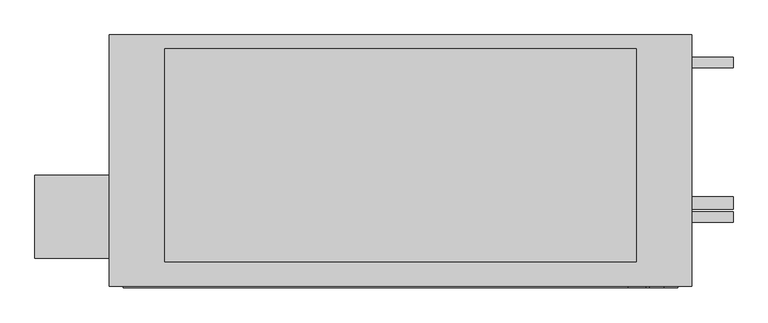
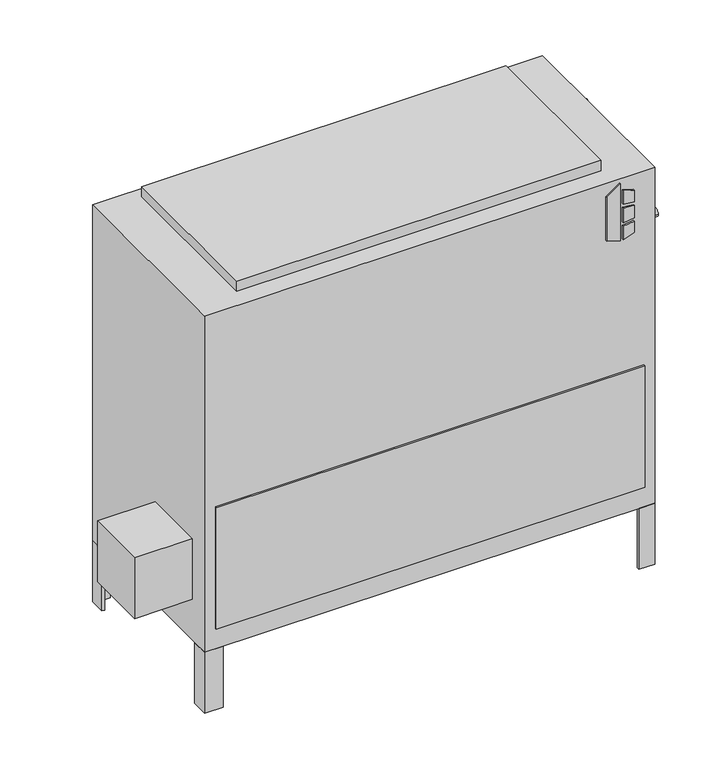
"""IFC4 building model written with IfcOpenShell, lengths in millimetres: proxy geometry, Concealed_High_Capacity_Vertical_Fan_Coil_Unit_-_VEY_-_IEC_-_2-Pipe_Cool-EHeat_RH_2022 : Size 14 - 277v/60Hz/1Ph - 6 Row 10.0kW."""

import ifcopenshell
import ifcopenshell.guid

model = None  # the IFC model being written
_history = None  # IfcOwnerHistory: only IFC2X3 demands one
_inside = {}  # id of a spatial element -> (the spatial element, [elements in it])
_under = {}  # id of a project, library or spatial element -> (it, [spatial elements below it])
_declared = {}  # id of a project -> (the project, [libraries it declares])
_typed = {}  # id of a type object -> (the type object, [elements of that type])
_made_of = {}  # id of a material, layer set ... -> (it, [elements and type objects made of it])


def new_model(schema):
    """Start an empty IFC model of exactly this schema.

    Asked for "IFC4X3", IfcOpenShell would pick the latest addendum, in which some entities
    have other attributes; the version numbers below select the first issue.
    IFC2X3 requires an IfcOwnerHistory on every rooted entity: one is made here for all.
    """
    global model, _history
    if schema == "IFC4X3":
        model = ifcopenshell.file(schema_version=(4, 3, 0, 0))
    else:
        model = ifcopenshell.file(schema=schema)
    _inside.clear()
    _under.clear()
    _declared.clear()
    _typed.clear()
    _made_of.clear()
    _history = None
    if model.schema == "IFC2X3":
        org = make("IfcOrganization", Name="unknown")
        user = make(
            "IfcPersonAndOrganization",
            ThePerson=make("IfcPerson", FamilyName="unknown"),
            TheOrganization=org,
        )
        app = make(
            "IfcApplication",
            ApplicationDeveloper=org,
            Version="unknown",
            ApplicationFullName="unknown",
            ApplicationIdentifier="unknown",
        )
        _history = make(
            "IfcOwnerHistory",
            OwningUser=user,
            OwningApplication=app,
            ChangeAction="ADDED",
            CreationDate=0,
        )
    return model


def make(cls, **values):
    """One entity of the class cls with the attributes given. An attribute that is None is left unset."""
    return model.create_entity(
        cls, **{name: value for name, value in values.items() if value is not None}
    )


def rooted(cls, **values):
    """An entity with a GlobalId (a new one), such as an element, a storey or a relation."""
    return make(cls, GlobalId=ifcopenshell.guid.new(), OwnerHistory=_history, **values)


def si_unit(unit_type, name, prefix=None):
    """IfcSIUnit, for example si_unit("LENGTHUNIT", "METRE", prefix="MILLI")."""
    return make("IfcSIUnit", UnitType=unit_type, Prefix=prefix, Name=name)


def assignment(units):
    """IfcUnitAssignment: the units of a project."""
    return None if units is None else make("IfcUnitAssignment", Units=units)


def point(xyz):
    """IfcCartesianPoint."""
    return None if xyz is None else make("IfcCartesianPoint", Coordinates=xyz)


def direction(xyz):
    """IfcDirection."""
    return None if xyz is None else make("IfcDirection", DirectionRatios=xyz)


def frame(location, z_axis=None, x_axis=None):
    """IfcAxis2Placement3D, a coordinate frame: its origin and axes. An axis left out is left unset."""
    return make(
        "IfcAxis2Placement3D",
        Location=point(location),
        Axis=direction(z_axis),
        RefDirection=direction(x_axis),
    )


def frame_2d(location, x_axis=None):
    """IfcAxis2Placement2D, a coordinate frame in the plane: its origin and x axis."""
    return make(
        "IfcAxis2Placement2D", Location=point(location), RefDirection=direction(x_axis)
    )


def origin():
    """The frame at (0, 0, 0) with its axes left unset."""
    return frame((0.0, 0.0, 0.0))


def origin_with_axes():
    """The frame at (0, 0, 0) with the z axis (0, 0, 1) and the x axis (1, 0, 0) written out."""
    return frame((0.0, 0.0, 0.0), z_axis=(0.0, 0.0, 1.0), x_axis=(1.0, 0.0, 0.0))


def place(relative_to, where):
    """IfcLocalPlacement: puts the frame where relative to a parent placement (None: the world)."""
    return make(
        "IfcLocalPlacement", PlacementRelTo=relative_to, RelativePlacement=where
    )


def context(
    kind, dimensions, precision=None, world=None, true_north=None, identifier=None
):
    """IfcGeometricRepresentationContext, for example the 3D "Model" context."""
    return make(
        "IfcGeometricRepresentationContext",
        ContextIdentifier=identifier,
        ContextType=kind,
        CoordinateSpaceDimension=dimensions,
        Precision=precision,
        WorldCoordinateSystem=world,
        TrueNorth=true_north,
    )


def project(units=None, contexts=None):
    """IfcProject with its units and contexts."""
    return rooted(
        "IfcProject",
        Name="project",
        RepresentationContexts=contexts,
        UnitsInContext=assignment(units),
    )


def spatial(cls, under=None, at=None, **own):
    """A site, building, storey or space (cls), placed at a placement, below another one or the project."""
    s = rooted(cls, ObjectPlacement=at, **own)
    if under is not None:
        _under.setdefault(under.id(), (under, []))[1].append(s)
    return s


def polyline(points):
    """IfcPolyline through the points."""
    return make("IfcPolyline", Points=[point(p) for p in points])


def circle_curve(where, radius):
    """IfcCircle in the frame where."""
    return make("IfcCircle", Position=where, Radius=radius)


def trimmed(basis, trim1, trim2, sense, master):
    """IfcTrimmedCurve: the piece of a basis curve between two trims."""
    return make(
        "IfcTrimmedCurve",
        BasisCurve=basis,
        Trim1=trim1,
        Trim2=trim2,
        SenseAgreement=sense,
        MasterRepresentation=master,
    )


def segment(curve, same_sense, transition):
    """IfcCompositeCurveSegment."""
    return make(
        "IfcCompositeCurveSegment",
        Transition=transition,
        SameSense=same_sense,
        ParentCurve=curve,
    )


def composite_curve(segments, self_intersect=None):
    """IfcCompositeCurve: segments joined end to end."""
    return make("IfcCompositeCurve", Segments=segments, SelfIntersect=self_intersect)


def outline(outer, holes=None, kind="AREA"):
    """IfcArbitraryClosedProfileDef: a profile drawn as a closed curve; with holes, ...WithVoids."""
    if holes is None:
        return make("IfcArbitraryClosedProfileDef", ProfileType=kind, OuterCurve=outer)
    return make(
        "IfcArbitraryProfileDefWithVoids",
        ProfileType=kind,
        OuterCurve=outer,
        InnerCurves=holes,
    )


def extrude(swept, where, along, depth):
    """IfcExtrudedAreaSolid: the profile swept, set in the frame where, extruded along a direction by depth."""
    return make(
        "IfcExtrudedAreaSolid",
        SweptArea=swept,
        Position=where,
        ExtrudedDirection=direction(along),
        Depth=depth,
    )


def shape(context_of_items, identifier, shape_type, items):
    """IfcShapeRepresentation: the items that make up one representation, for example the "Body"."""
    return make(
        "IfcShapeRepresentation",
        ContextOfItems=context_of_items,
        RepresentationIdentifier=identifier,
        RepresentationType=shape_type,
        Items=items,
    )


def source(mapping_origin, context_of_items, identifier, shape_type, items):
    """IfcRepresentationMap: a shape defined once, which mapped items show again and again."""
    return make(
        "IfcRepresentationMap",
        MappingOrigin=mapping_origin,
        MappedRepresentation=shape(context_of_items, identifier, shape_type, items),
    )


def transform(
    local_origin,
    x_axis=None,
    y_axis=None,
    z_axis=None,
    scale=None,
    scale2=None,
    scale3=None,
    uniform=True,
):
    """IfcCartesianTransformationOperator3D, or its non-uniform kind. x_axis, y_axis, z_axis: its Axis1, 2, 3."""
    if uniform:
        return make(
            "IfcCartesianTransformationOperator3D",
            Axis1=direction(x_axis),
            Axis2=direction(y_axis),
            LocalOrigin=point(local_origin),
            Scale=scale,
            Axis3=direction(z_axis),
        )
    return make(
        "IfcCartesianTransformationOperator3DnonUniform",
        Axis1=direction(x_axis),
        Axis2=direction(y_axis),
        LocalOrigin=point(local_origin),
        Scale=scale,
        Axis3=direction(z_axis),
        Scale2=scale2,
        Scale3=scale3,
    )


def mapped(mapping_source, mapping_target):
    """IfcMappedItem: shows the shape of a source again, moved by a transform."""
    return make(
        "IfcMappedItem", MappingSource=mapping_source, MappingTarget=mapping_target
    )


def made_of(thing, what):
    """Note that an element or type object is made of a material, layer set ...; save() writes the relation."""
    if what is not None:
        _made_of.setdefault(what.id(), (what, []))[1].append(thing)
    return thing


def element(
    cls,
    number,
    at=None,
    inside=None,
    cuts=None,
    type_object=None,
    material=None,
    context=None,
    identifier="Body",
    shape_type=None,
    held_by="IfcProductDefinitionShape",
    body=None,
    shapes=None,
    **own,
):
    """One element of the class cls, such as IfcWall. Its Tag is "e" and its number.

    at: its placement. inside: the storey or other place that contains it. cuts: it is an
    opening in that element (IfcRelVoidsElement). A single representation is given by context,
    identifier, shape_type and body (its items); several are given by shapes. held_by: the class
    of the entity that holds the representations. save() writes the other relations.
    """
    e = rooted(cls, Tag="e%d" % number, ObjectPlacement=at, **own)
    if body is not None:
        shapes = [shape(context, identifier, shape_type, body)]
    if shapes is not None:
        e.Representation = make(held_by, Representations=shapes)
    if inside is not None:
        _inside.setdefault(inside.id(), (inside, []))[1].append(e)
    if cuts is not None:
        rooted(
            "IfcRelVoidsElement", RelatingBuildingElement=cuts, RelatedOpeningElement=e
        )
    if type_object is not None:
        _typed.setdefault(type_object.id(), (type_object, []))[1].append(e)
    return made_of(e, material)


def aggregate(whole, parts):
    """IfcRelAggregates: a whole, such as a stair, and the parts it consists of."""
    return rooted("IfcRelAggregates", RelatingObject=whole, RelatedObjects=parts)


def save(model, path):
    """Write the relations noted so far, then the file.

    IfcRelAggregates (storeys below a building ...), IfcRelContainedInSpatialStructure (elements
    in a storey), IfcRelDefinesByType, IfcRelAssociatesMaterial and IfcRelDeclares: one each for
    every whole, place, type object, material and project.
    """
    for whole, parts in _under.values():
        aggregate(whole, parts)
    for where, things in _inside.values():
        rooted(
            "IfcRelContainedInSpatialStructure",
            RelatedElements=things,
            RelatingStructure=where,
        )
    for kind, things in _typed.values():
        rooted("IfcRelDefinesByType", RelatedObjects=things, RelatingType=kind)
    for what, things in _made_of.values():
        rooted("IfcRelAssociatesMaterial", RelatedObjects=things, RelatingMaterial=what)
    for by, libraries in _declared.values():
        rooted("IfcRelDeclares", RelatingContext=by, RelatedDefinitions=libraries)
    model.write(path)


def mechanical_equipment_129ce4c1(model_context):
    return source(origin(), model_context, "Body", "SweptSolid", [
        extrude(outline(polyline([(698.9230703, 569.9868862), (688.975, 602.1602728), (831.1459244, 602.1602728), (808.1239183, 569.9868862), (698.9230703, 569.9868862)])), frame((0.0, -471.4875, 0.0), z_axis=(0.0, 1.0, 0.0), x_axis=(0.0, 0.0, 1.0)), (0.0, 0.0, 1.0), 3.175),
        extrude(outline(polyline([(777.9223557, 608.9186058), (774.7199632, 635.0), (803.9488042, 635.0), (812.0132193, 608.9186058), (777.9223557, 608.9186058)])), frame((0.0, -471.4875, 0.0), z_axis=(0.0, 1.0, 0.0), x_axis=(0.0, 0.0, 1.0)), (0.0, 0.0, 1.0), 3.175),
        extrude(outline(polyline([(726.0588288, 635.0), (722.3933279, 608.9186058), (688.975, 608.9186058), (697.6092372, 635.0), (726.0588288, 635.0)])), frame((0.0, -471.4875, 0.0), z_axis=(0.0, 1.0, 0.0), x_axis=(0.0, 0.0, 1.0)), (0.0, 0.0, 1.0), 3.175),
        extrude(outline(polyline([(765.3739903, 635.0), (767.6558166, 608.9186058), (731.7182681, 608.9186058), (734.4595331, 635.0), (765.3739903, 635.0)])), frame((0.0, -471.4875, 0.0), z_axis=(0.0, 1.0, 0.0), x_axis=(0.0, 0.0, 1.0)), (0.0, 0.0, 1.0), 3.175),
        extrude(outline(polyline([(-517.525, -417.5125), (-517.525, -265.1125), (-381.0, -265.1125), (-381.0, -417.5125), (-517.525, -417.5125)])), frame((0.0, 0.0, 101.6), z_axis=(0.0, 0.0, 1.0), x_axis=(1.0, 0.0, 0.0)), (0.0, 0.0, 1.0), 152.4),
        extrude(outline(polyline([(685.8, -46.0375), (679.45, -46.0375), (679.45, -14.2875), (647.7, -14.2875), (647.7, -7.9375), (685.8, -7.9375), (685.8, -46.0375)])), frame((0.0, 0.0, -152.4), z_axis=(0.0, 0.0, 1.0), x_axis=(1.0, 0.0, 0.0)), (0.0, 0.0, 1.0), 152.4),
        extrude(outline(polyline([(-342.9, -7.9375), (-342.9, -14.2875), (-374.65, -14.2875), (-374.65, -46.0375), (-381.0, -46.0375), (-381.0, -7.9375), (-342.9, -7.9375)])), frame((0.0, 0.0, -152.4), z_axis=(0.0, 0.0, 1.0), x_axis=(1.0, 0.0, 0.0)), (0.0, 0.0, 1.0), 152.4),
        extrude(outline(polyline([(647.7, -468.3125), (647.7, -461.9625), (679.45, -461.9625), (679.45, -430.2125), (685.8, -430.2125), (685.8, -468.3125), (647.7, -468.3125)])), frame((0.0, 0.0, -152.4), z_axis=(0.0, 0.0, 1.0), x_axis=(1.0, 0.0, 0.0)), (0.0, 0.0, 1.0), 152.4),
        extrude(outline(polyline([(-381.0, -428.1199163), (-374.65, -428.1199163), (-374.65, -461.9625), (-337.5318533, -461.9625), (-337.5318533, -468.3125), (-381.0, -468.3125), (-381.0, -428.1199163)])), frame((0.0, 0.0, -152.4), z_axis=(0.0, 0.0, 1.0), x_axis=(1.0, 0.0, 0.0)), (0.0, 0.0, 1.0), 152.4),
        extrude(outline(polyline([(584.2, -33.3375), (584.2, -423.8625), (-279.4, -423.8625), (-279.4, -33.3375), (584.2, -33.3375)])), frame((0.0, 0.0, 841.375), z_axis=(0.0, 0.0, 1.0), x_axis=(1.0, 0.0, 0.0)), (0.0, 0.0, 1.0), 25.4),
        extrude(outline(polyline([(660.4, -471.4875), (-355.6, -471.4875), (-355.6, -468.3125), (660.4, -468.3125), (660.4, -471.4875)])), frame((0.0, 0.0, 50.8), z_axis=(0.0, 0.0, 1.0), x_axis=(1.0, 0.0, 0.0)), (0.0, 0.0, 1.0), 304.8),
        extrude(outline(composite_curve([segment(trimmed(circle_curve(frame_2d((-58.7375, 727.075)), 9.525), [point((-49.2125, 727.075))], [point((-68.2625, 727.075))], False, "CARTESIAN"), True, "CONTINUOUS"), segment(trimmed(circle_curve(frame_2d((-58.7375, 727.075)), 9.525), [point((-68.2625, 727.075))], [point((-49.2125, 727.075))], False, "CARTESIAN"), True, "CONTINUOUS")], self_intersect=False)), frame((685.8, 0.0, 0.0), z_axis=(1.0, 0.0, 0.0), x_axis=(0.0, 1.0, 0.0)), (0.0, 0.0, 1.0), 76.2),
        extrude(outline(composite_curve([segment(trimmed(circle_curve(frame_2d((-341.3125, 625.475)), 9.525), [point((-331.7875, 625.475))], [point((-350.8375, 625.475))], False, "CARTESIAN"), True, "CONTINUOUS"), segment(trimmed(circle_curve(frame_2d((-341.3125, 625.475)), 9.525), [point((-350.8375, 625.475))], [point((-331.7875, 625.475))], False, "CARTESIAN"), True, "CONTINUOUS")], self_intersect=False)), frame((685.8, 0.0, 0.0), z_axis=(1.0, 0.0, 0.0), x_axis=(0.0, 1.0, 0.0)), (0.0, 0.0, 1.0), 76.2),
        extrude(outline(composite_curve([segment(trimmed(circle_curve(frame_2d((-315.9125, 536.575)), 11.1125), [point((-304.8, 536.575))], [point((-327.025, 536.575))], False, "CARTESIAN"), True, "CONTINUOUS"), segment(trimmed(circle_curve(frame_2d((-315.9125, 536.575)), 11.1125), [point((-327.025, 536.575))], [point((-304.8, 536.575))], False, "CARTESIAN"), True, "CONTINUOUS")], self_intersect=False)), frame((685.8, 0.0, 0.0), z_axis=(1.0, 0.0, 0.0), x_axis=(0.0, 1.0, 0.0)), (0.0, 0.0, 1.0), 76.2),
        extrude(outline(polyline([(685.8, -7.9375), (685.8, -468.3125), (-381.0, -468.3125), (-381.0, -7.9375), (685.8, -7.9375)])), origin_with_axes(), (0.0, 0.0, 1.0), 841.375),
    ])


if __name__ == "__main__":
    model = new_model("IFC4")
    model_context = context("Model", 3, world=origin())
    ifc_project = project(units=[si_unit("LENGTHUNIT", "METRE", prefix="MILLI")], contexts=[model_context])
    site = spatial("IfcSite", under=ifc_project)
    building = spatial("IfcBuilding", under=site)
    placement = place(None, origin())
    mechanical_equipment_shape = mechanical_equipment_129ce4c1(model_context)
    element("IfcBuildingElementProxy", 1, Name="Concealed_High_Capacity_Vertical_Fan_Coil_Unit_-_VEY_-_IEC_-_2-Pipe_Cool-EHeat_RH_2022 : Size 14 - 277v/60Hz/1Ph - 6 Row 10.0kW", ObjectType="Concealed_High_Capacity_Vertical_Fan_Coil_Unit_-_VEY_-_IEC_-_2-Pipe_Cool-EHeat_RH_2022 : Size 14 - 277v/60Hz/1Ph - 6 Row 10.0kW", at=placement, inside=building, context=model_context, shape_type="MappedRepresentation", body=[
        mapped(mechanical_equipment_shape, transform((0.0, 0.0, 0.0), x_axis=(1.0, 0.0, 0.0), y_axis=(0.0, 1.0, 0.0), z_axis=(0.0, 0.0, 1.0))),
    ])
    save(model, "model.ifc")
